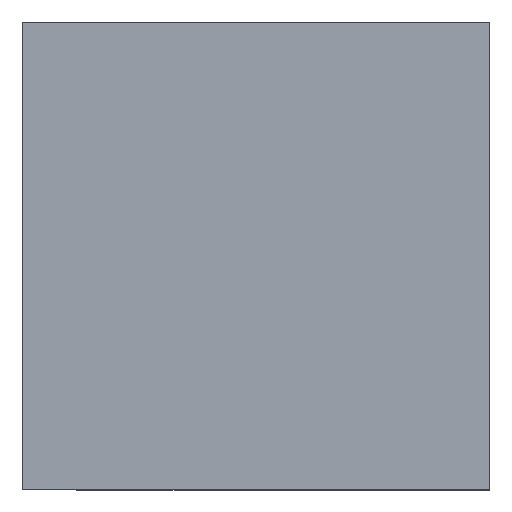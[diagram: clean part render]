
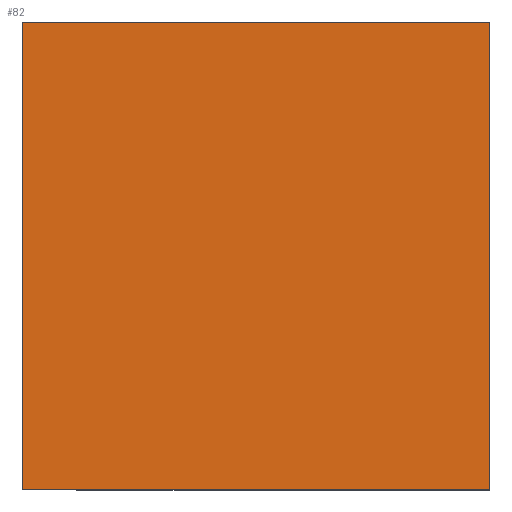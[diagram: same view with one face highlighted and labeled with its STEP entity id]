
A CAD part, top view. The second image highlights one B-rep face of the part: STEP entity #82.
In plain terms, the highlighted planar face has unit normal (0, 0, 1).
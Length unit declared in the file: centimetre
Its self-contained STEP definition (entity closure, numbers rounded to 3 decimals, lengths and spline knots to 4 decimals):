
#10 = AXIS2_PLACEMENT_3D ( 'NONE', #377, #381, #41 ) ;
#35 = DIRECTION ( 'NONE',  ( -1., 0., 0. ) ) ;
#41 = DIRECTION ( 'NONE',  ( 1., 0., 0. ) ) ;
#42 = PLANE ( 'NONE',  #10 ) ;
#46 = EDGE_CURVE ( 'NONE', #120, #422, #299, .T. ) ;
#55 = ORIENTED_EDGE ( 'NONE', *, *, #366, .T. ) ;
#59 = ORIENTED_EDGE ( 'NONE', *, *, #155, .T. ) ;
#61 = ORIENTED_EDGE ( 'NONE', *, *, #241, .T. ) ;
#74 = VERTEX_POINT ( 'NONE', #257 ) ;
#82 = ADVANCED_FACE ( 'NONE', ( #237 ), #42, .T. ) ;
#103 = DIRECTION ( 'NONE',  ( 0., -1., 0. ) ) ;
#114 = EDGE_LOOP ( 'NONE', ( #61, #202, #55, #59 ) ) ;
#120 = VERTEX_POINT ( 'NONE', #374 ) ;
#121 = VECTOR ( 'NONE', #427, 100. ) ;
#123 = VECTOR ( 'NONE', #103, 100. ) ;
#135 = LINE ( 'NONE', #200, #276 ) ;
#137 = CARTESIAN_POINT ( 'NONE',  ( 0., 0., 1000. ) ) ;
#155 = EDGE_CURVE ( 'NONE', #162, #74, #135, .T. ) ;
#162 = VERTEX_POINT ( 'NONE', #332 ) ;
#200 = CARTESIAN_POINT ( 'NONE',  ( 0., 1000., 1000. ) ) ;
#202 = ORIENTED_EDGE ( 'NONE', *, *, #46, .T. ) ;
#222 = LINE ( 'NONE', #403, #123 ) ;
#237 = FACE_OUTER_BOUND ( 'NONE', #114, .T. ) ;
#241 = EDGE_CURVE ( 'NONE', #74, #120, #222, .T. ) ;
#257 = CARTESIAN_POINT ( 'NONE',  ( 0., 1000., 1000. ) ) ;
#270 = DIRECTION ( 'NONE',  ( 1., 0., 0. ) ) ;
#276 = VECTOR ( 'NONE', #35, 100. ) ;
#292 = LINE ( 'NONE', #394, #121 ) ;
#299 = LINE ( 'NONE', #137, #337 ) ;
#332 = CARTESIAN_POINT ( 'NONE',  ( 1000., 1000., 1000. ) ) ;
#337 = VECTOR ( 'NONE', #270, 100. ) ;
#358 = CARTESIAN_POINT ( 'NONE',  ( 1000., 0., 1000. ) ) ;
#366 = EDGE_CURVE ( 'NONE', #422, #162, #292, .T. ) ;
#374 = CARTESIAN_POINT ( 'NONE',  ( 0., 0., 1000. ) ) ;
#377 = CARTESIAN_POINT ( 'NONE',  ( 0., 0., 1000. ) ) ;
#381 = DIRECTION ( 'NONE',  ( 0., 0., 1. ) ) ;
#394 = CARTESIAN_POINT ( 'NONE',  ( 1000., 1000., 1000. ) ) ;
#403 = CARTESIAN_POINT ( 'NONE',  ( 0., 1000., 1000. ) ) ;
#422 = VERTEX_POINT ( 'NONE', #358 ) ;
#427 = DIRECTION ( 'NONE',  ( 0., 1., 0. ) ) ;
